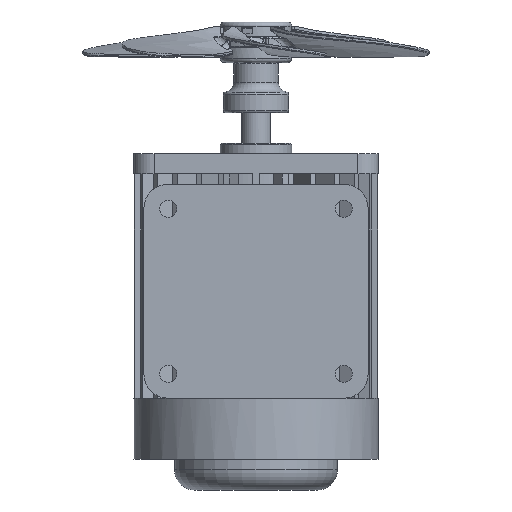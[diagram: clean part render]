
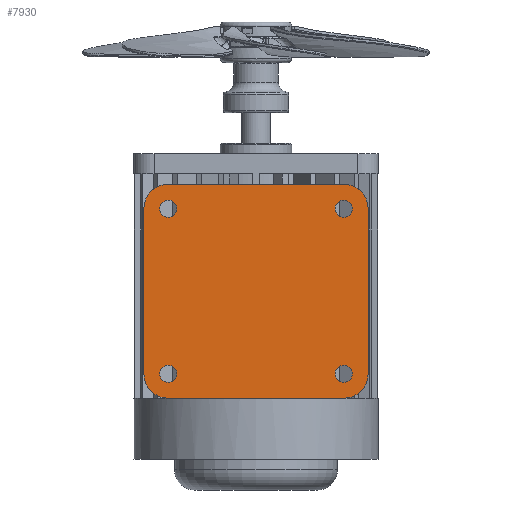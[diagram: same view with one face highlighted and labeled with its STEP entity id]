
A CAD part, front view. The second image highlights one B-rep face of the part: STEP entity #7930.
In plain terms, the highlighted planar face has unit normal (0, -1, 0).
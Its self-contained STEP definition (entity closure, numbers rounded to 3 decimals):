
#423=FACE_BOUND('',#1263,.T.);
#424=FACE_BOUND('',#1264,.T.);
#425=FACE_BOUND('',#1265,.T.);
#426=FACE_BOUND('',#1266,.T.);
#507=PLANE('',#8570);
#814=FACE_OUTER_BOUND('',#1262,.T.);
#1262=EDGE_LOOP('',(#5570,#5571,#5572,#5573,#5574,#5575,#5576,#5577));
#1263=EDGE_LOOP('',(#5578));
#1264=EDGE_LOOP('',(#5579));
#1265=EDGE_LOOP('',(#5580));
#1266=EDGE_LOOP('',(#5581));
#1790=LINE('',#11652,#2506);
#1805=LINE('',#11682,#2521);
#1806=LINE('',#11686,#2522);
#1807=LINE('',#11690,#2523);
#2506=VECTOR('',#9384,10.);
#2521=VECTOR('',#9401,10.);
#2522=VECTOR('',#9404,10.);
#2523=VECTOR('',#9407,10.);
#3220=CIRCLE('',#8556,4.2);
#3222=CIRCLE('',#8559,4.2);
#3224=CIRCLE('',#8562,4.2);
#3226=CIRCLE('',#8565,4.2);
#3227=CIRCLE('',#8567,12.);
#3229=CIRCLE('',#8571,12.);
#3230=CIRCLE('',#8572,12.);
#3231=CIRCLE('',#8573,12.);
#3550=VERTEX_POINT('',#11620);
#3552=VERTEX_POINT('',#11626);
#3554=VERTEX_POINT('',#11632);
#3556=VERTEX_POINT('',#11638);
#3557=VERTEX_POINT('',#11642);
#3558=VERTEX_POINT('',#11643);
#3561=VERTEX_POINT('',#11651);
#3575=VERTEX_POINT('',#11681);
#3576=VERTEX_POINT('',#11683);
#3577=VERTEX_POINT('',#11685);
#3578=VERTEX_POINT('',#11687);
#3579=VERTEX_POINT('',#11689);
#4334=EDGE_CURVE('',#3550,#3550,#3220,.T.);
#4337=EDGE_CURVE('',#3552,#3552,#3222,.T.);
#4340=EDGE_CURVE('',#3554,#3554,#3224,.T.);
#4343=EDGE_CURVE('',#3556,#3556,#3226,.T.);
#4344=EDGE_CURVE('',#3557,#3558,#3227,.T.);
#4348=EDGE_CURVE('',#3558,#3561,#1790,.T.);
#4363=EDGE_CURVE('',#3557,#3575,#1805,.T.);
#4364=EDGE_CURVE('',#3576,#3575,#3229,.T.);
#4365=EDGE_CURVE('',#3577,#3576,#1806,.T.);
#4366=EDGE_CURVE('',#3578,#3577,#3230,.T.);
#4367=EDGE_CURVE('',#3579,#3578,#1807,.T.);
#4368=EDGE_CURVE('',#3561,#3579,#3231,.T.);
#5570=ORIENTED_EDGE('',*,*,#4344,.F.);
#5571=ORIENTED_EDGE('',*,*,#4363,.T.);
#5572=ORIENTED_EDGE('',*,*,#4364,.F.);
#5573=ORIENTED_EDGE('',*,*,#4365,.F.);
#5574=ORIENTED_EDGE('',*,*,#4366,.F.);
#5575=ORIENTED_EDGE('',*,*,#4367,.F.);
#5576=ORIENTED_EDGE('',*,*,#4368,.F.);
#5577=ORIENTED_EDGE('',*,*,#4348,.F.);
#5578=ORIENTED_EDGE('',*,*,#4334,.T.);
#5579=ORIENTED_EDGE('',*,*,#4337,.T.);
#5580=ORIENTED_EDGE('',*,*,#4340,.T.);
#5581=ORIENTED_EDGE('',*,*,#4343,.T.);
#7930=ADVANCED_FACE('',(#814,#423,#424,#425,#426),#507,.T.);
#8556=AXIS2_PLACEMENT_3D('',#11622,#9351,#9352);
#8559=AXIS2_PLACEMENT_3D('',#11628,#9358,#9359);
#8562=AXIS2_PLACEMENT_3D('',#11634,#9365,#9366);
#8565=AXIS2_PLACEMENT_3D('',#11640,#9372,#9373);
#8567=AXIS2_PLACEMENT_3D('',#11644,#9376,#9377);
#8570=AXIS2_PLACEMENT_3D('',#11680,#9399,#9400);
#8571=AXIS2_PLACEMENT_3D('',#11684,#9402,#9403);
#8572=AXIS2_PLACEMENT_3D('',#11688,#9405,#9406);
#8573=AXIS2_PLACEMENT_3D('',#11691,#9408,#9409);
#9351=DIRECTION('center_axis',(0.,1.,0.));
#9352=DIRECTION('ref_axis',(1.,0.,0.));
#9358=DIRECTION('center_axis',(0.,1.,0.));
#9359=DIRECTION('ref_axis',(1.,0.,0.));
#9365=DIRECTION('center_axis',(0.,1.,0.));
#9366=DIRECTION('ref_axis',(1.,0.,0.));
#9372=DIRECTION('center_axis',(0.,1.,0.));
#9373=DIRECTION('ref_axis',(1.,0.,0.));
#9376=DIRECTION('center_axis',(0.,1.,0.));
#9377=DIRECTION('ref_axis',(-0.707,0.,0.707));
#9384=DIRECTION('',(1.,0.,0.));
#9399=DIRECTION('center_axis',(0.,-1.,0.));
#9400=DIRECTION('ref_axis',(0.,0.,-1.));
#9401=DIRECTION('',(0.,0.,-1.));
#9402=DIRECTION('center_axis',(0.,1.,0.));
#9403=DIRECTION('ref_axis',(-0.707,0.,-0.707));
#9404=DIRECTION('',(-1.,0.,0.));
#9405=DIRECTION('center_axis',(0.,1.,0.));
#9406=DIRECTION('ref_axis',(0.707,0.,-0.707));
#9407=DIRECTION('',(0.,0.,-1.));
#9408=DIRECTION('center_axis',(0.,1.,0.));
#9409=DIRECTION('ref_axis',(0.707,0.,0.707));
#11620=CARTESIAN_POINT('',(38.8,-70.,-113.));
#11622=CARTESIAN_POINT('Origin',(43.,-70.,-113.));
#11626=CARTESIAN_POINT('',(38.8,-70.,-32.));
#11628=CARTESIAN_POINT('Origin',(43.,-70.,-32.));
#11632=CARTESIAN_POINT('',(-47.2,-70.,-32.));
#11634=CARTESIAN_POINT('Origin',(-43.,-70.,-32.));
#11638=CARTESIAN_POINT('',(-47.2,-70.,-113.));
#11640=CARTESIAN_POINT('Origin',(-43.,-70.,-113.));
#11642=CARTESIAN_POINT('',(-55.,-70.,-32.));
#11643=CARTESIAN_POINT('',(-43.,-70.,-20.));
#11644=CARTESIAN_POINT('Origin',(-43.,-70.,-32.));
#11651=CARTESIAN_POINT('',(43.,-70.,-20.));
#11652=CARTESIAN_POINT('',(15.,-70.,-20.));
#11680=CARTESIAN_POINT('Origin',(0.,-70.,-72.5));
#11681=CARTESIAN_POINT('',(-55.,-70.,-113.));
#11682=CARTESIAN_POINT('',(-55.,-70.,-20.));
#11683=CARTESIAN_POINT('',(-43.,-70.,-125.));
#11684=CARTESIAN_POINT('Origin',(-43.,-70.,-113.));
#11685=CARTESIAN_POINT('',(43.,-70.,-125.));
#11686=CARTESIAN_POINT('',(15.815,-70.,-125.));
#11687=CARTESIAN_POINT('',(55.,-70.,-113.));
#11688=CARTESIAN_POINT('Origin',(43.,-70.,-113.));
#11689=CARTESIAN_POINT('',(55.,-70.,-32.));
#11690=CARTESIAN_POINT('',(55.,-70.,-20.));
#11691=CARTESIAN_POINT('Origin',(43.,-70.,-32.));
